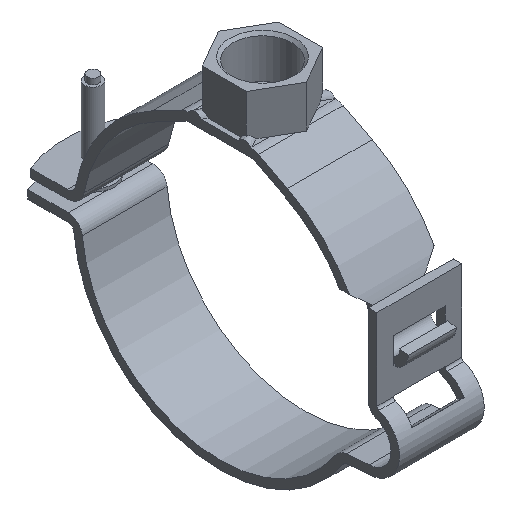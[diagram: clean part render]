
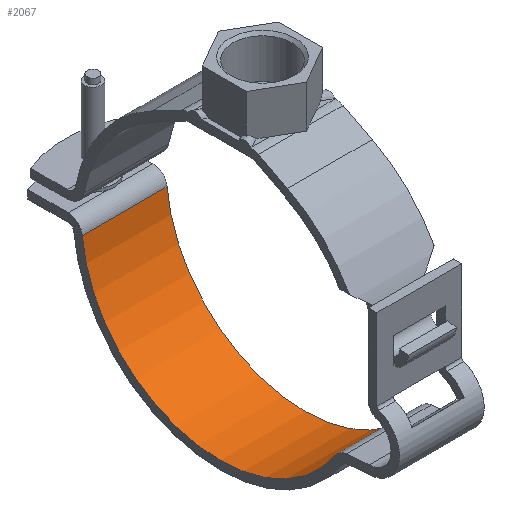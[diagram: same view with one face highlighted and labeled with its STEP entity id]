
A CAD part, isometric view. The second image highlights one B-rep face of the part: STEP entity #2067.
In plain terms, the highlighted cylindrical face has radius 49 mm (diameter 98 mm), a partial arc.
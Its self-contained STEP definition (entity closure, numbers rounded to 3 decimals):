
#192=LINE('',#3453,#379);
#193=LINE('',#3455,#380);
#379=VECTOR('',#2814,30.);
#380=VECTOR('',#2817,30.);
#562=FACE_OUTER_BOUND('',#683,.T.);
#683=EDGE_LOOP('',(#1740,#1741,#1742,#1743));
#771=CIRCLE('',#2213,49.);
#774=CIRCLE('',#2217,49.);
#952=VERTEX_POINT('',#3327);
#953=VERTEX_POINT('',#3329);
#956=VERTEX_POINT('',#3337);
#957=VERTEX_POINT('',#3339);
#1194=EDGE_CURVE('',#952,#953,#771,.T.);
#1199=EDGE_CURVE('',#956,#957,#774,.T.);
#1258=EDGE_CURVE('',#952,#957,#192,.T.);
#1259=EDGE_CURVE('',#953,#956,#193,.T.);
#1740=ORIENTED_EDGE('',*,*,#1258,.T.);
#1741=ORIENTED_EDGE('',*,*,#1199,.F.);
#1742=ORIENTED_EDGE('',*,*,#1259,.F.);
#1743=ORIENTED_EDGE('',*,*,#1194,.F.);
#1865=CYLINDRICAL_SURFACE('',#2268,49.);
#2067=ADVANCED_FACE('',(#562),#1865,.F.);
#2213=AXIS2_PLACEMENT_3D('',#3330,#2673,#2674);
#2217=AXIS2_PLACEMENT_3D('',#3340,#2683,#2684);
#2268=AXIS2_PLACEMENT_3D('',#3454,#2815,#2816);
#2673=DIRECTION('center_axis',(1.,0.,0.));
#2674=DIRECTION('ref_axis',(0.,0.835,0.55));
#2683=DIRECTION('center_axis',(-1.,0.,0.));
#2684=DIRECTION('ref_axis',(0.,0.835,0.55));
#2814=DIRECTION('',(1.,0.,0.));
#2815=DIRECTION('center_axis',(1.,0.,0.));
#2816=DIRECTION('ref_axis',(0.,0.835,0.55));
#2817=DIRECTION('',(1.,0.,0.));
#3327=CARTESIAN_POINT('',(-15.,-40.933,-26.935));
#3329=CARTESIAN_POINT('',(-15.,48.789,-4.537));
#3330=CARTESIAN_POINT('Origin',(-15.,0.,0.));
#3337=CARTESIAN_POINT('',(15.,48.789,-4.537));
#3339=CARTESIAN_POINT('',(15.,-40.933,-26.935));
#3340=CARTESIAN_POINT('Origin',(15.,0.,0.));
#3453=CARTESIAN_POINT('',(0.,-40.933,-26.935));
#3454=CARTESIAN_POINT('Origin',(0.,0.,0.));
#3455=CARTESIAN_POINT('',(0.,48.789,-4.537));
